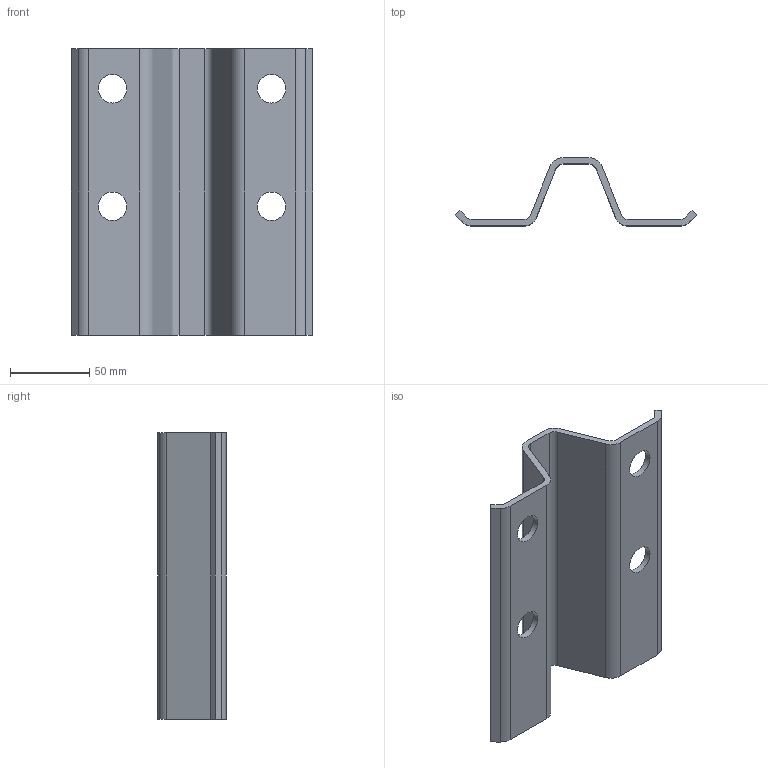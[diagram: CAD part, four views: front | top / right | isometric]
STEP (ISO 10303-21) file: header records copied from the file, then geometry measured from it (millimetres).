
FILE_DESCRIPTION(/* description */ (''),/* implementation_level */ '2;1');
FILE_NAME(/* name */ 'C225.stp',/* time_stamp */ '2023-07-03T11:08:04+02:00',/* author */ ('woriedl'),/* organization */ (''),/* preprocessor_version */ 'ST-DEVELOPER v19.2',/* originating_system */ 'AutoCAD Mechanical',/* authorisation */ '');
FILE_SCHEMA (('AUTOMOTIVE_DESIGN { 1 0 10303 214 3 1 1 }'));
Length unit declared in the file: centimetre
Products named in the file (1): Product
Bounding box: 151.72 x 43 x 180 mm (x, y, z)
Volume: 141241.9 mm3; surface area: 74580.3 mm2
Topology: 1 solids, 1 shells, 34 faces, 96 edges, 64 vertices
Faces by surface type: plane 18, cylinder 16
Full cylindrical faces by diameter (mm): 18 x4
Entity records: 1151 total; most frequent: DIRECTION 198, CARTESIAN_POINT 195, ORIENTED_EDGE 192, EDGE_CURVE 96, AXIS2_PLACEMENT_3D 67, LINE 64, VECTOR 64, VERTEX_POINT 64
